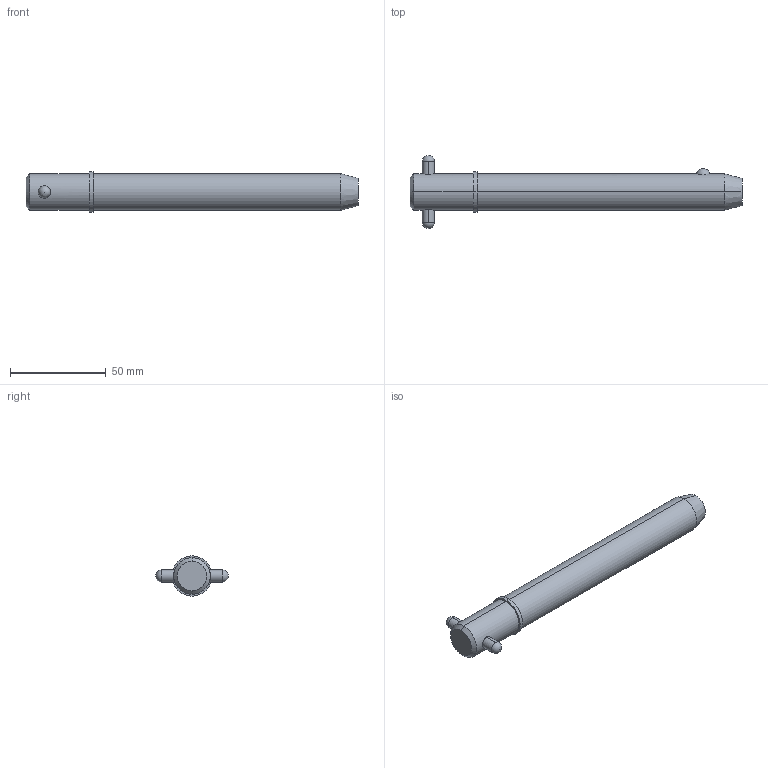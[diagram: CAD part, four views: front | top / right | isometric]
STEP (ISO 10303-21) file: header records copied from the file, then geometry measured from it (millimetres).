
FILE_DESCRIPTION (( 'STEP AP203' ), '1' );
FILE_NAME ('33018.W7545.step', '2024-11-19T17:20:51', ( '' ), ( '' ), 'SwSTEP 2.0', 'SolidWorks 2019', '' );
FILE_SCHEMA (( 'CONFIG_CONTROL_DESIGN' ));
Length unit declared in the file: millimetre
Products named in the file (3): Part2_33018.W7545; 33018.W7545; Part1_33018.W7545
Assembly tree (2 placements, depth 2):
  33018.W7545
    Part1_33018.W7545
    Part2_33018.W7545
Bounding box: 173.03 x 38.1 x 20.95 mm (x, y, z)
Volume: 49363.8 mm3; surface area: 11903.8 mm2
Topology: 2 solids, 2 shells, 22 faces, 47 edges, 30 vertices
Faces by surface type: cylinder 10, sphere 4, cone 4, plane 4
Entity records: 1041 total; most frequent: CARTESIAN_POINT 284, DIRECTION 110, ORIENTED_EDGE 82, AXIS2_PLACEMENT_3D 48, EDGE_CURVE 41, EDGE_LOOP 27, PERSON_AND_ORGANIZATION 26, VERTEX_POINT 26
